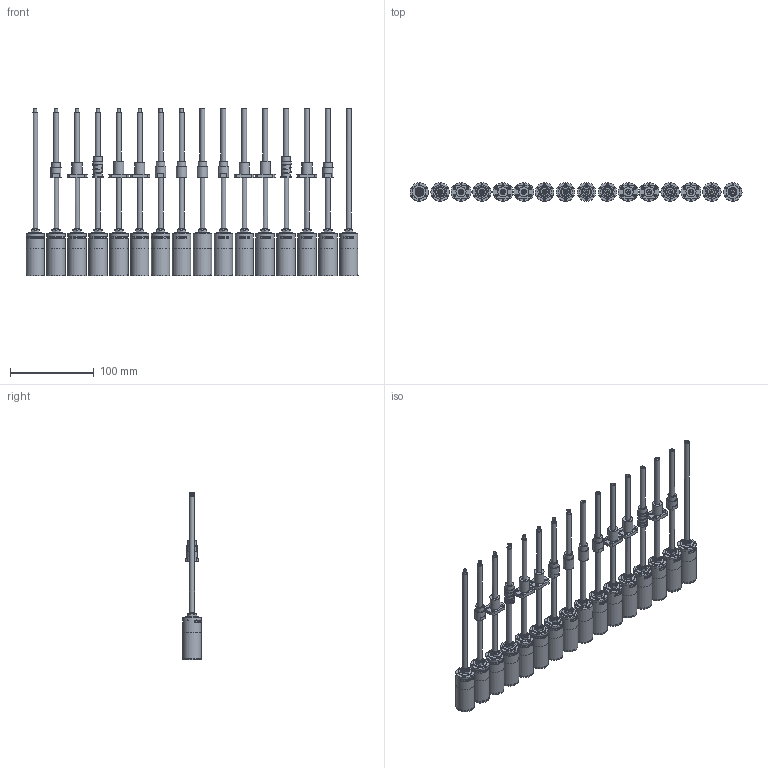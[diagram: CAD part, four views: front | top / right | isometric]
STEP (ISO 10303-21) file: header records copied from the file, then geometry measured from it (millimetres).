
FILE_DESCRIPTION(/* description */ (''),/* implementation_level */ '2;1');
FILE_NAME(/* name */ '922L-4stage_standard+KWNx+KWS1.stp',/* time_stamp */ '2022-11-04T08:32:45+01:00',/* author */ ('DR. FRITZ FAULHABER GmbH & Co. KG'),/* organization */ ('DR. FRITZ FAULHABER GmbH & Co. KG'),/* preprocessor_version */ 'ST-DEVELOPER v16.7',/* originating_system */ 'SIEMENS PLM Software NX 1919',/* authorisation */ '');
FILE_SCHEMA (('AUTOMOTIVE_DESIGN { 1 0 10303 214 3 1 1 1 }'));
Length unit declared in the file: millimetre
Products named in the file (1): LA_part
Bounding box: 397 x 22.01 x 199.9 mm (x, y, z)
Volume: 389782.2 mm3; surface area: 131991.8 mm2
Topology: 16 solids, 16 shells, 2084 faces, 5004 edges, 3363 vertices
Faces by surface type: plane 1090, cylinder 555, bspline 391, torus 32, cone 16
Full cylindrical faces by diameter (mm): 1.6 x96, 3.4 x24, 4 x8, 6 x46, 6.6 x16, 10 x8, 10.068 x16, 10.1 x2, 12 x20, 12.5 x8, 16 x16, 20.8 x16, 21 x16, 21.999 x16, 22 x32
Entity records: 110283 total; most frequent: CARTESIAN_POINT 60838, ORIENTED_EDGE 8992, DIRECTION 6957, EDGE_CURVE 4496, VERTEX_POINT 3265, EDGE_LOOP 2941, AXIS2_PLACEMENT_3D 2934, B_SPLINE_CURVE_WITH_KNOTS 2167
